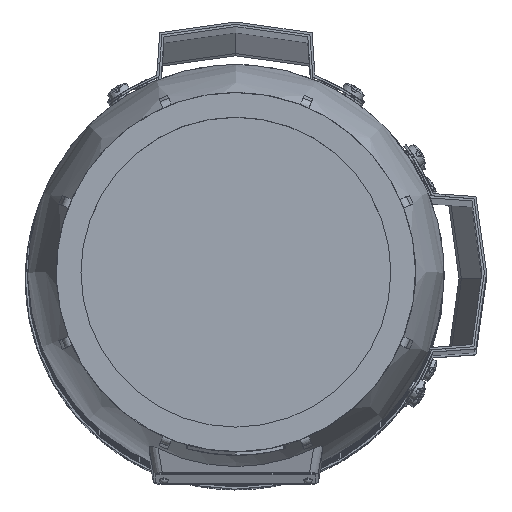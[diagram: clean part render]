
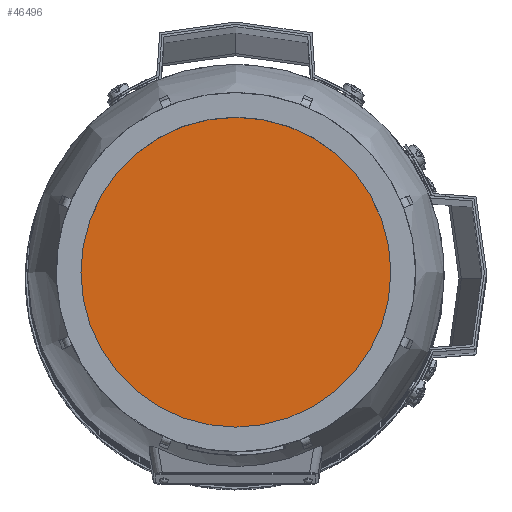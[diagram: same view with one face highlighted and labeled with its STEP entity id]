
A CAD part, top view. The second image highlights one B-rep face of the part: STEP entity #46496.
In plain terms, the highlighted planar face has unit normal (0, 0, 1) as drawn and (0, 1, 0) by its records, which use the part's own axes.
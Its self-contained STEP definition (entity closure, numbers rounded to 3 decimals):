
#9829=ORIENTED_EDGE('',*,*,#23885,.F.);
#23885=EDGE_CURVE('',#30913,#30913,#35643,.T.);
#30913=VERTEX_POINT('',#67131);
#35643=CIRCLE('',#49035,67.736);
#37766=EDGE_LOOP('',(#9829));
#41120=FACE_BOUND('',#37766,.T.);
#44492=PLANE('',#49034);
#46496=ADVANCED_FACE('',(#41120),#44492,.F.);
#49034=AXIS2_PLACEMENT_3D('',#67129,#53634,#53635);
#49035=AXIS2_PLACEMENT_3D('',#67130,#53636,#53637);
#53634=DIRECTION('',(0.,-1.,0.));
#53635=DIRECTION('',(0.,0.,-1.));
#53636=DIRECTION('',(0.,-1.,0.));
#53637=DIRECTION('',(0.,0.,-1.));
#67129=CARTESIAN_POINT('',(0.,154.,0.));
#67130=CARTESIAN_POINT('',(0.,154.,0.));
#67131=CARTESIAN_POINT('',(0.,154.,-67.736));
